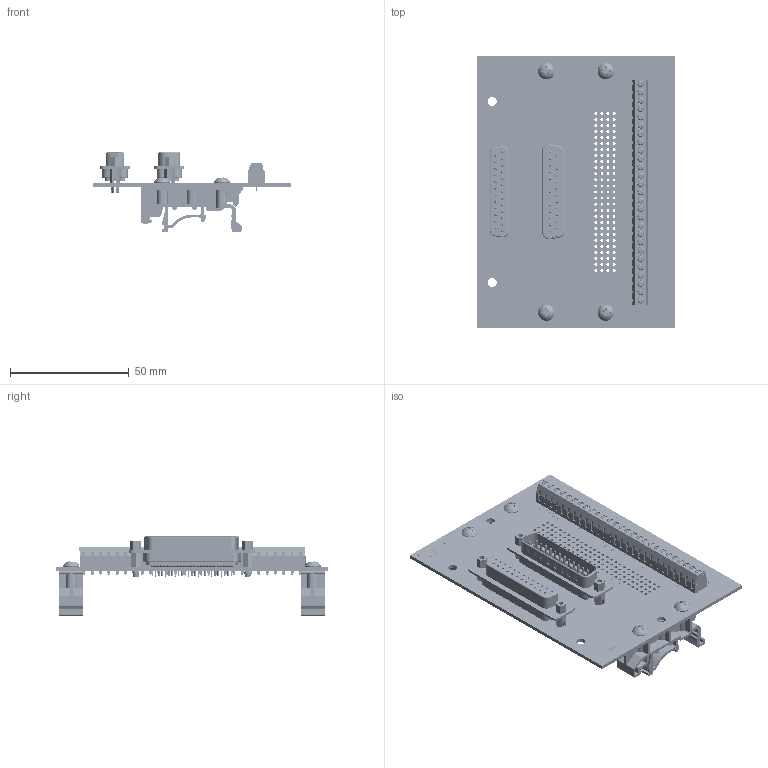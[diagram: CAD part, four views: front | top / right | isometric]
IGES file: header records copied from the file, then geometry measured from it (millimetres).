
Start section: SolidWorks IGES file using analytic representation for surfaces
Global section: file name: C:\Users\Jonny\Documents\Winford Engineering Jobs\BRKG25\BRK25MF\brk25mf-s-din_rev_b.igs; native system: SolidWorks 2017; preprocessor: SolidWorks 2017; author: Jonny; date: 171009.215456; units: inch
Bounding box: 83.31 x 114.3 x 33.57 mm (x, y, z)
Volume: 33140.9 mm3; surface area: 44299.5 mm2
Topology: 122 solids, 122 shells, 7208 faces, 20582 edges, 13758 vertices
Faces by surface type: plane 3794, revolution 2213, bspline 1201
